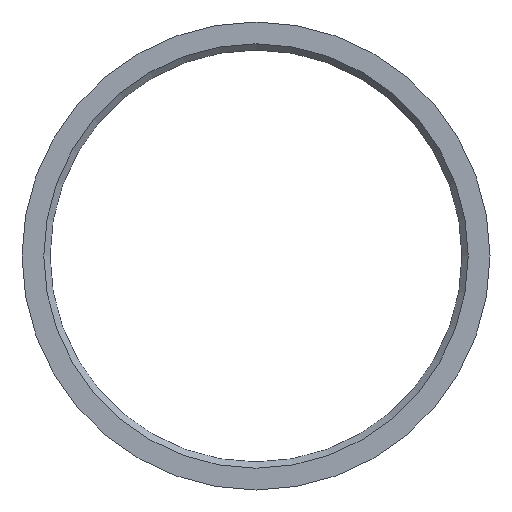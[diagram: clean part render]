
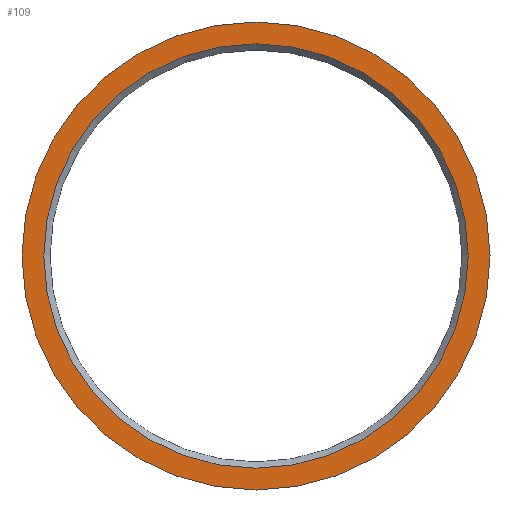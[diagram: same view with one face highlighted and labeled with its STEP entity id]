
A CAD part, front view. The second image highlights one B-rep face of the part: STEP entity #109.
In plain terms, the highlighted planar face has unit normal (0, -1, 0).
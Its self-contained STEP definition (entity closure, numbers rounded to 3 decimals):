
#16=FACE_BOUND('',#34,.T.);
#18=PLANE('',#144);
#25=FACE_OUTER_BOUND('',#33,.T.);
#33=EDGE_LOOP('',(#90));
#34=EDGE_LOOP('',(#91));
#51=CIRCLE('',#143,34.05);
#52=CIRCLE('',#145,37.55);
#59=VERTEX_POINT('',#202);
#60=VERTEX_POINT('',#206);
#70=EDGE_CURVE('',#59,#59,#51,.T.);
#71=EDGE_CURVE('',#60,#60,#52,.T.);
#90=ORIENTED_EDGE('',*,*,#71,.F.);
#91=ORIENTED_EDGE('',*,*,#70,.F.);
#109=ADVANCED_FACE('',(#25,#16),#18,.F.);
#143=AXIS2_PLACEMENT_3D('',#204,#171,#172);
#144=AXIS2_PLACEMENT_3D('',#205,#173,#174);
#145=AXIS2_PLACEMENT_3D('',#207,#175,#176);
#171=DIRECTION('center_axis',(0.,-1.,0.));
#172=DIRECTION('ref_axis',(1.,0.,0.));
#173=DIRECTION('center_axis',(0.,1.,0.));
#174=DIRECTION('ref_axis',(0.,0.,1.));
#175=DIRECTION('center_axis',(0.,1.,0.));
#176=DIRECTION('ref_axis',(-1.,0.,0.));
#202=CARTESIAN_POINT('',(-34.05,0.,0.));
#204=CARTESIAN_POINT('Origin',(0.,0.,0.));
#205=CARTESIAN_POINT('Origin',(0.,0.,0.));
#206=CARTESIAN_POINT('',(-37.55,0.,0.));
#207=CARTESIAN_POINT('Origin',(0.,0.,0.));
